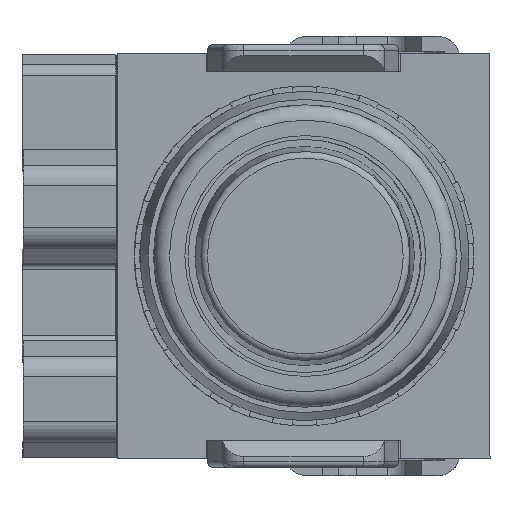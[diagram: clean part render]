
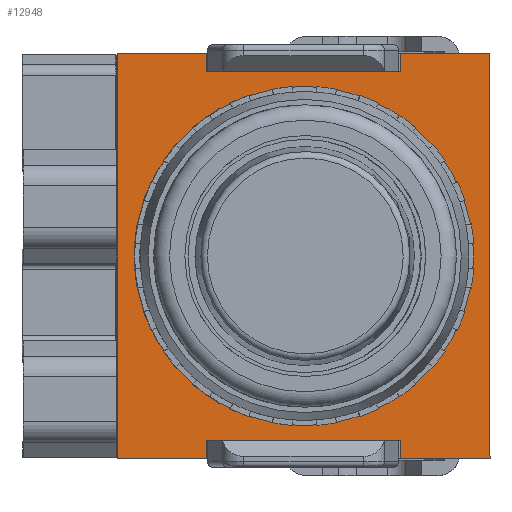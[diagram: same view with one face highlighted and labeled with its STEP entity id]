
A CAD part, front view. The second image highlights one B-rep face of the part: STEP entity #12948.
In plain terms, the highlighted planar face has unit normal (0.005, -1, 0) as drawn and (0, 1, 0) by its records, which use the part's own axes.
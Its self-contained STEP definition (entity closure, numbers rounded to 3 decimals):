
#242=FACE_BOUND('',#1651,.T.);
#324=CIRCLE('',#13708,12.35);
#893=FACE_OUTER_BOUND('',#1650,.T.);
#1650=EDGE_LOOP('',(#8655,#8656,#8657,#8658,#8659,#8660,#8661,#8662,#8663,
#8664,#8665,#8666));
#1651=EDGE_LOOP('',(#8667));
#2472=LINE('',#18862,#3936);
#2476=LINE('',#18870,#3940);
#2479=LINE('',#18876,#3943);
#2482=LINE('',#18883,#3946);
#2486=LINE('',#18891,#3950);
#2489=LINE('',#18897,#3953);
#2492=LINE('',#18903,#3956);
#2500=LINE('',#18918,#3964);
#2502=LINE('',#18922,#3966);
#2504=LINE('',#18925,#3968);
#2505=LINE('',#18928,#3969);
#2507=LINE('',#18931,#3971);
#3936=VECTOR('',#14972,1.7);
#3940=VECTOR('',#14978,17.7);
#3943=VECTOR('',#14983,1.7);
#3946=VECTOR('',#14988,1.7);
#3950=VECTOR('',#14994,17.7);
#3953=VECTOR('',#14999,1.7);
#3956=VECTOR('',#15004,8.15);
#3964=VECTOR('',#15016,8.15);
#3966=VECTOR('',#15020,37.);
#3968=VECTOR('',#15024,8.15);
#3969=VECTOR('',#15027,37.);
#3971=VECTOR('',#15031,8.15);
#5397=VERTEX_POINT('',#18856);
#5398=VERTEX_POINT('',#18860);
#5399=VERTEX_POINT('',#18861);
#5402=VERTEX_POINT('',#18869);
#5404=VERTEX_POINT('',#18875);
#5406=VERTEX_POINT('',#18881);
#5407=VERTEX_POINT('',#18882);
#5410=VERTEX_POINT('',#18890);
#5412=VERTEX_POINT('',#18896);
#5414=VERTEX_POINT('',#18902);
#5419=VERTEX_POINT('',#18917);
#5420=VERTEX_POINT('',#18921);
#5421=VERTEX_POINT('',#18927);
#6659=EDGE_CURVE('',#5397,#5397,#324,.T.);
#6660=EDGE_CURVE('',#5398,#5399,#2472,.T.);
#6664=EDGE_CURVE('',#5402,#5398,#2476,.T.);
#6667=EDGE_CURVE('',#5404,#5402,#2479,.T.);
#6670=EDGE_CURVE('',#5406,#5407,#2482,.T.);
#6674=EDGE_CURVE('',#5410,#5406,#2486,.T.);
#6677=EDGE_CURVE('',#5412,#5410,#2489,.T.);
#6680=EDGE_CURVE('',#5414,#5404,#2492,.T.);
#6688=EDGE_CURVE('',#5419,#5412,#2500,.T.);
#6690=EDGE_CURVE('',#5420,#5414,#2502,.T.);
#6692=EDGE_CURVE('',#5407,#5420,#2504,.T.);
#6693=EDGE_CURVE('',#5421,#5419,#2505,.T.);
#6695=EDGE_CURVE('',#5399,#5421,#2507,.T.);
#8655=ORIENTED_EDGE('',*,*,#6660,.T.);
#8656=ORIENTED_EDGE('',*,*,#6695,.T.);
#8657=ORIENTED_EDGE('',*,*,#6693,.T.);
#8658=ORIENTED_EDGE('',*,*,#6688,.T.);
#8659=ORIENTED_EDGE('',*,*,#6677,.T.);
#8660=ORIENTED_EDGE('',*,*,#6674,.T.);
#8661=ORIENTED_EDGE('',*,*,#6670,.T.);
#8662=ORIENTED_EDGE('',*,*,#6692,.T.);
#8663=ORIENTED_EDGE('',*,*,#6690,.T.);
#8664=ORIENTED_EDGE('',*,*,#6680,.T.);
#8665=ORIENTED_EDGE('',*,*,#6667,.T.);
#8666=ORIENTED_EDGE('',*,*,#6664,.T.);
#8667=ORIENTED_EDGE('',*,*,#6659,.T.);
#12378=PLANE('',#13723);
#12948=ADVANCED_FACE('',(#893,#242),#12378,.T.);
#13708=AXIS2_PLACEMENT_3D('',#18857,#14966,#14967);
#13723=AXIS2_PLACEMENT_3D('',#18932,#15032,#15033);
#14966=DIRECTION('center_axis',(0.,-1.,0.));
#14967=DIRECTION('ref_axis',(-1.,0.,0.));
#14972=DIRECTION('',(0.,0.,1.));
#14978=DIRECTION('',(1.,0.,0.));
#14983=DIRECTION('',(0.,0.,-1.));
#14988=DIRECTION('',(0.,0.,-1.));
#14994=DIRECTION('',(-1.,0.,0.));
#14999=DIRECTION('',(0.,0.,1.));
#15004=DIRECTION('',(1.,0.,0.));
#15016=DIRECTION('',(-1.,0.,0.));
#15020=DIRECTION('',(0.,0.,1.));
#15024=DIRECTION('',(-1.,0.,0.));
#15027=DIRECTION('',(0.,0.,-1.));
#15031=DIRECTION('',(1.,0.,0.));
#15032=DIRECTION('center_axis',(0.,1.,0.));
#15033=DIRECTION('ref_axis',(0.,0.,1.));
#18856=CARTESIAN_POINT('',(12.35,10.,0.));
#18857=CARTESIAN_POINT('Origin',(0.,10.,0.));
#18860=CARTESIAN_POINT('',(8.85,10.,16.8));
#18861=CARTESIAN_POINT('',(8.85,10.,18.5));
#18862=CARTESIAN_POINT('',(8.85,10.,8.4));
#18869=CARTESIAN_POINT('',(-8.85,10.,16.8));
#18870=CARTESIAN_POINT('',(-4.425,10.,16.8));
#18875=CARTESIAN_POINT('',(-8.85,10.,18.5));
#18876=CARTESIAN_POINT('',(-8.85,10.,9.25));
#18881=CARTESIAN_POINT('',(-8.85,10.,-16.8));
#18882=CARTESIAN_POINT('',(-8.85,10.,-18.5));
#18883=CARTESIAN_POINT('',(-8.85,10.,-8.4));
#18890=CARTESIAN_POINT('',(8.85,10.,-16.8));
#18891=CARTESIAN_POINT('',(4.425,10.,-16.8));
#18896=CARTESIAN_POINT('',(8.85,10.,-18.5));
#18897=CARTESIAN_POINT('',(8.85,10.,-9.25));
#18902=CARTESIAN_POINT('',(-17.,10.,18.5));
#18903=CARTESIAN_POINT('',(-17.,10.,18.5));
#18917=CARTESIAN_POINT('',(17.,10.,-18.5));
#18918=CARTESIAN_POINT('',(17.,10.,-18.5));
#18921=CARTESIAN_POINT('',(-17.,10.,-18.5));
#18922=CARTESIAN_POINT('',(-17.,10.,-18.5));
#18925=CARTESIAN_POINT('',(17.,10.,-18.5));
#18927=CARTESIAN_POINT('',(17.,10.,18.5));
#18928=CARTESIAN_POINT('',(17.,10.,18.5));
#18931=CARTESIAN_POINT('',(-17.,10.,18.5));
#18932=CARTESIAN_POINT('Origin',(0.,10.,0.));
